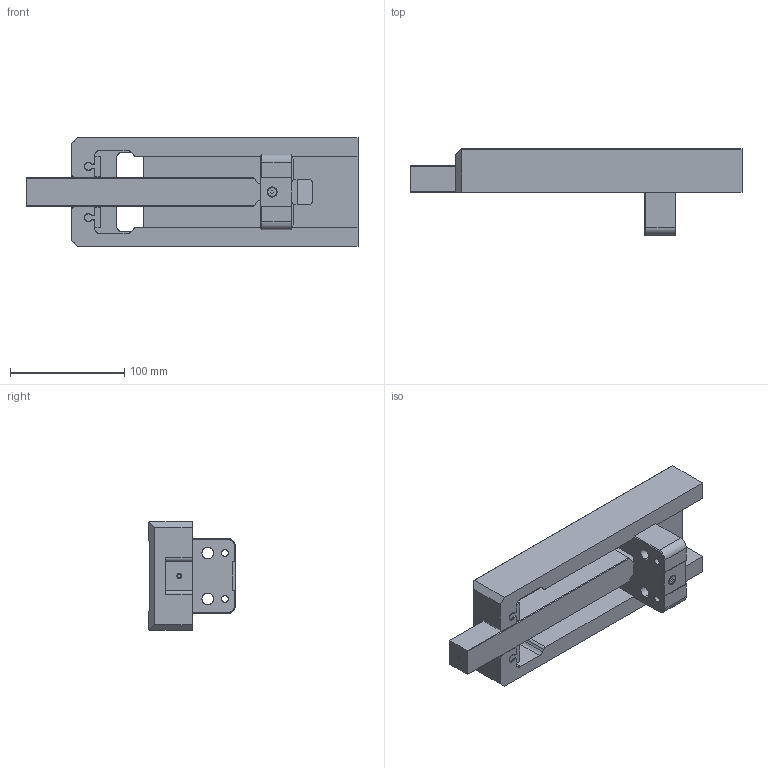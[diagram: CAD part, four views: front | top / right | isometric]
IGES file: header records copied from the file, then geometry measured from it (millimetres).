
Start section: SolidWorks IGES file using analytic representation for surfaces
Global section: file name: G:\CAD\Hakdrag\SA\SA-140\SA-140-250-00.igs; native system: SolidWorks 2015; preprocessor: SolidWorks 2015; author: ChBe; date: 150616.082542; units: millimetre
Bounding box: 290 x 75.6 x 95 mm (x, y, z)
Surface area: 124369.4 mm2 (no closed solid volume)
Topology: 0 solids, 0 shells, 154 faces, 1804 edges, 1804 vertices
Faces by surface type: bspline 95, revolution 59
